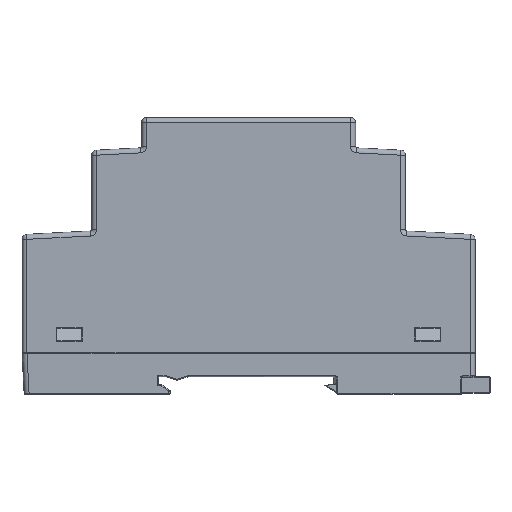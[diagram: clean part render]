
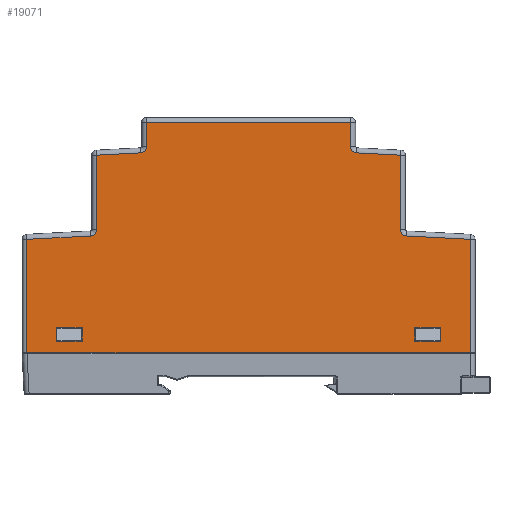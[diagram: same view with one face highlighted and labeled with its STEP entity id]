
A CAD part, left-side view. The second image highlights one B-rep face of the part: STEP entity #19071.
In plain terms, the highlighted planar face has unit normal (-1, 0, 0).
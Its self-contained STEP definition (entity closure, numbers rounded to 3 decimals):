
#11292=DIRECTION('',(0.,0.,-1.));
#11293=VECTOR('',#11292,2.7);
#11294=CARTESIAN_POINT('',(-9.,-33.4,5.));
#11295=LINE('',#11294,#11293);
#11299=DIRECTION('',(0.,-1.,0.));
#11300=VECTOR('',#11299,5.2);
#11301=CARTESIAN_POINT('',(-9.,-33.4,2.3));
#11302=LINE('',#11301,#11300);
#11306=DIRECTION('',(0.,0.,1.));
#11307=VECTOR('',#11306,2.7);
#11308=CARTESIAN_POINT('',(-9.,-38.6,2.3));
#11309=LINE('',#11308,#11307);
#11313=DIRECTION('',(0.,1.,0.));
#11314=VECTOR('',#11313,5.2);
#11315=CARTESIAN_POINT('',(-9.,-38.6,5.));
#11316=LINE('',#11315,#11314);
#11320=DIRECTION('',(0.,0.,-1.));
#11321=VECTOR('',#11320,2.7);
#11322=CARTESIAN_POINT('',(-9.,38.6,5.));
#11323=LINE('',#11322,#11321);
#11327=DIRECTION('',(0.,-1.,0.));
#11328=VECTOR('',#11327,5.2);
#11329=CARTESIAN_POINT('',(-9.,38.6,2.3));
#11330=LINE('',#11329,#11328);
#11334=DIRECTION('',(0.,0.,1.));
#11335=VECTOR('',#11334,2.7);
#11336=CARTESIAN_POINT('',(-9.,33.4,2.3));
#11337=LINE('',#11336,#11335);
#11341=DIRECTION('',(0.,1.,0.));
#11342=VECTOR('',#11341,5.2);
#11343=CARTESIAN_POINT('',(-9.,33.4,5.));
#11344=LINE('',#11343,#11342);
#11348=DIRECTION('',(0.,0.,1.));
#11349=VECTOR('',#11348,4.886);
#11350=CARTESIAN_POINT('',(-9.,-20.5,41.314));
#11351=LINE('',#11350,#11349);
#11355=DIRECTION('',(0.,0.999,0.052));
#11356=VECTOR('',#11355,8.875);
#11357=CARTESIAN_POINT('',(-9.,-30.5,39.651));
#11358=LINE('',#11357,#11356);
#11362=DIRECTION('',(0.,0.,1.));
#11363=VECTOR('',#11362,15.028);
#11364=CARTESIAN_POINT('',(-9.,-30.5,24.624));
#11365=LINE('',#11364,#11363);
#11369=DIRECTION('',(0.,0.999,0.052));
#11370=VECTOR('',#11369,12.88);
#11371=CARTESIAN_POINT('',(-9.,-44.5,22.751));
#11372=LINE('',#11371,#11370);
#11376=DIRECTION('',(0.,0.,1.));
#11377=VECTOR('',#11376,22.751);
#11378=CARTESIAN_POINT('',(-9.,-44.5,0.));
#11379=LINE('',#11378,#11377);
#11383=DIRECTION('',(0.,1.,0.));
#11384=VECTOR('',#11383,89.);
#11385=CARTESIAN_POINT('',(-9.,-44.5,0.));
#11386=LINE('',#11385,#11384);
#11390=DIRECTION('',(0.,0.,-1.));
#11391=VECTOR('',#11390,22.751);
#11392=CARTESIAN_POINT('',(-9.,44.5,22.751));
#11393=LINE('',#11392,#11391);
#11397=DIRECTION('',(0.,0.999,-0.052));
#11398=VECTOR('',#11397,12.88);
#11399=CARTESIAN_POINT('',(-9.,31.637,23.425));
#11400=LINE('',#11399,#11398);
#11404=DIRECTION('',(0.,0.,-1.));
#11405=VECTOR('',#11404,15.028);
#11406=CARTESIAN_POINT('',(-9.,30.5,39.651));
#11407=LINE('',#11406,#11405);
#11411=DIRECTION('',(0.,0.999,-0.052));
#11412=VECTOR('',#11411,8.875);
#11413=CARTESIAN_POINT('',(-9.,21.637,40.116));
#11414=LINE('',#11413,#11412);
#11418=DIRECTION('',(0.,0.,-1.));
#11419=VECTOR('',#11418,4.886);
#11420=CARTESIAN_POINT('',(-9.,20.5,46.2));
#11421=LINE('',#11420,#11419);
#11425=DIRECTION('',(0.,1.,0.));
#11426=VECTOR('',#11425,41.);
#11427=CARTESIAN_POINT('',(-9.,-20.5,46.2));
#11428=LINE('',#11427,#11426);
#13362=CARTESIAN_POINT('',(-9.,31.7,24.624));
#13363=DIRECTION('',(-1.,0.,0.));
#13364=DIRECTION('',(0.,-0.052,-0.999));
#13365=AXIS2_PLACEMENT_3D('',#13362,#13363,#13364);
#14467=CARTESIAN_POINT('',(-9.,-31.7,24.624));
#14468=DIRECTION('',(-1.,0.,0.));
#14469=DIRECTION('',(0.,1.,0.));
#14470=AXIS2_PLACEMENT_3D('',#14467,#14468,#14469);
#14779=CARTESIAN_POINT('',(-9.,-21.7,41.314));
#14780=DIRECTION('',(-1.,0.,0.));
#14781=DIRECTION('',(0.,1.,0.));
#14782=AXIS2_PLACEMENT_3D('',#14779,#14780,#14781);
#14859=CARTESIAN_POINT('',(-9.,21.7,41.314));
#14860=DIRECTION('',(-1.,0.,0.));
#14861=DIRECTION('',(0.,-0.052,-0.999));
#14862=AXIS2_PLACEMENT_3D('',#14859,#14860,#14861);
#18001=CARTESIAN_POINT('',(-9.,-33.4,5.));
#18002=CARTESIAN_POINT('',(-9.,-33.4,2.3));
#18003=VERTEX_POINT('',#18001);
#18004=VERTEX_POINT('',#18002);
#18005=CARTESIAN_POINT('',(-9.,-38.6,2.3));
#18006=VERTEX_POINT('',#18005);
#18007=CARTESIAN_POINT('',(-9.,-38.6,5.));
#18008=VERTEX_POINT('',#18007);
#18009=CARTESIAN_POINT('',(-9.,38.6,5.));
#18010=CARTESIAN_POINT('',(-9.,38.6,2.3));
#18011=VERTEX_POINT('',#18009);
#18012=VERTEX_POINT('',#18010);
#18013=CARTESIAN_POINT('',(-9.,33.4,2.3));
#18014=VERTEX_POINT('',#18013);
#18015=CARTESIAN_POINT('',(-9.,33.4,5.));
#18016=VERTEX_POINT('',#18015);
#18098=CARTESIAN_POINT('',(-9.,-44.5,0.));
#18100=VERTEX_POINT('',#18098);
#18101=CARTESIAN_POINT('',(-9.,-44.5,22.751));
#18102=VERTEX_POINT('',#18101);
#18139=CARTESIAN_POINT('',(-9.,-20.5,46.2));
#18140=CARTESIAN_POINT('',(-9.,20.5,46.2));
#18141=VERTEX_POINT('',#18139);
#18142=VERTEX_POINT('',#18140);
#18171=CARTESIAN_POINT('',(-9.,44.5,0.));
#18173=VERTEX_POINT('',#18171);
#18175=CARTESIAN_POINT('',(-9.,44.5,22.751));
#18176=VERTEX_POINT('',#18175);
#18177=CARTESIAN_POINT('',(-9.,30.5,39.651));
#18178=VERTEX_POINT('',#18177);
#18179=CARTESIAN_POINT('',(-9.,-30.5,39.651));
#18180=VERTEX_POINT('',#18179);
#18193=CARTESIAN_POINT('',(-9.,-31.637,23.425));
#18194=VERTEX_POINT('',#18193);
#18195=CARTESIAN_POINT('',(-9.,-30.5,24.624));
#18196=VERTEX_POINT('',#18195);
#18209=CARTESIAN_POINT('',(-9.,-21.637,40.116));
#18210=VERTEX_POINT('',#18209);
#18211=CARTESIAN_POINT('',(-9.,-20.5,41.314));
#18212=VERTEX_POINT('',#18211);
#18225=CARTESIAN_POINT('',(-9.,20.5,41.314));
#18226=VERTEX_POINT('',#18225);
#18227=CARTESIAN_POINT('',(-9.,21.637,40.116));
#18228=VERTEX_POINT('',#18227);
#18241=CARTESIAN_POINT('',(-9.,30.5,24.624));
#18242=VERTEX_POINT('',#18241);
#18243=CARTESIAN_POINT('',(-9.,31.637,23.425));
#18244=VERTEX_POINT('',#18243);
#19012=CARTESIAN_POINT('',(-9.,0.,0.));
#19013=DIRECTION('',(1.,0.,0.));
#19014=DIRECTION('',(0.,0.,-1.));
#19015=AXIS2_PLACEMENT_3D('',#19012,#19013,#19014);
#19016=PLANE('',#19015);
#19018=ORIENTED_EDGE('',*,*,#19017,.F.);
#19020=ORIENTED_EDGE('',*,*,#19019,.T.);
#19022=ORIENTED_EDGE('',*,*,#19021,.F.);
#19024=ORIENTED_EDGE('',*,*,#19023,.F.);
#19026=ORIENTED_EDGE('',*,*,#19025,.T.);
#19028=ORIENTED_EDGE('',*,*,#19027,.F.);
#19030=ORIENTED_EDGE('',*,*,#19029,.F.);
#19032=ORIENTED_EDGE('',*,*,#19031,.T.);
#19034=ORIENTED_EDGE('',*,*,#19033,.F.);
#19036=ORIENTED_EDGE('',*,*,#19035,.F.);
#19038=ORIENTED_EDGE('',*,*,#19037,.T.);
#19040=ORIENTED_EDGE('',*,*,#19039,.F.);
#19042=ORIENTED_EDGE('',*,*,#19041,.F.);
#19044=ORIENTED_EDGE('',*,*,#19043,.T.);
#19046=ORIENTED_EDGE('',*,*,#19045,.F.);
#19048=ORIENTED_EDGE('',*,*,#19047,.F.);
#19049=EDGE_LOOP('',(#19018,#19020,#19022,#19024,#19026,#19028,#19030,#19032,
#19034,#19036,#19038,#19040,#19042,#19044,#19046,#19048));
#19050=FACE_OUTER_BOUND('',#19049,.F.);
#19052=ORIENTED_EDGE('',*,*,#19051,.T.);
#19054=ORIENTED_EDGE('',*,*,#19053,.T.);
#19056=ORIENTED_EDGE('',*,*,#19055,.T.);
#19058=ORIENTED_EDGE('',*,*,#19057,.T.);
#19059=EDGE_LOOP('',(#19052,#19054,#19056,#19058));
#19060=FACE_BOUND('',#19059,.F.);
#19062=ORIENTED_EDGE('',*,*,#19061,.T.);
#19064=ORIENTED_EDGE('',*,*,#19063,.T.);
#19066=ORIENTED_EDGE('',*,*,#19065,.T.);
#19068=ORIENTED_EDGE('',*,*,#19067,.T.);
#19069=EDGE_LOOP('',(#19062,#19064,#19066,#19068));
#19070=FACE_BOUND('',#19069,.F.);
#13366=CIRCLE('',#13365,1.2);
#14471=CIRCLE('',#14470,1.2);
#14783=CIRCLE('',#14782,1.2);
#14863=CIRCLE('',#14862,1.2);
#19017=EDGE_CURVE('',#18212,#18141,#11351,.T.);
#19019=EDGE_CURVE('',#18212,#18210,#14783,.T.);
#19021=EDGE_CURVE('',#18180,#18210,#11358,.T.);
#19023=EDGE_CURVE('',#18196,#18180,#11365,.T.);
#19025=EDGE_CURVE('',#18196,#18194,#14471,.T.);
#19027=EDGE_CURVE('',#18102,#18194,#11372,.T.);
#19029=EDGE_CURVE('',#18100,#18102,#11379,.T.);
#19031=EDGE_CURVE('',#18100,#18173,#11386,.T.);
#19033=EDGE_CURVE('',#18176,#18173,#11393,.T.);
#19035=EDGE_CURVE('',#18244,#18176,#11400,.T.);
#19037=EDGE_CURVE('',#18244,#18242,#13366,.T.);
#19039=EDGE_CURVE('',#18178,#18242,#11407,.T.);
#19041=EDGE_CURVE('',#18228,#18178,#11414,.T.);
#19043=EDGE_CURVE('',#18228,#18226,#14863,.T.);
#19045=EDGE_CURVE('',#18142,#18226,#11421,.T.);
#19047=EDGE_CURVE('',#18141,#18142,#11428,.T.);
#19051=EDGE_CURVE('',#18011,#18012,#11323,.T.);
#19053=EDGE_CURVE('',#18012,#18014,#11330,.T.);
#19055=EDGE_CURVE('',#18014,#18016,#11337,.T.);
#19057=EDGE_CURVE('',#18016,#18011,#11344,.T.);
#19061=EDGE_CURVE('',#18003,#18004,#11295,.T.);
#19063=EDGE_CURVE('',#18004,#18006,#11302,.T.);
#19065=EDGE_CURVE('',#18006,#18008,#11309,.T.);
#19067=EDGE_CURVE('',#18008,#18003,#11316,.T.);
#19071=ADVANCED_FACE('',(#19050,#19060,#19070),#19016,.F.);
